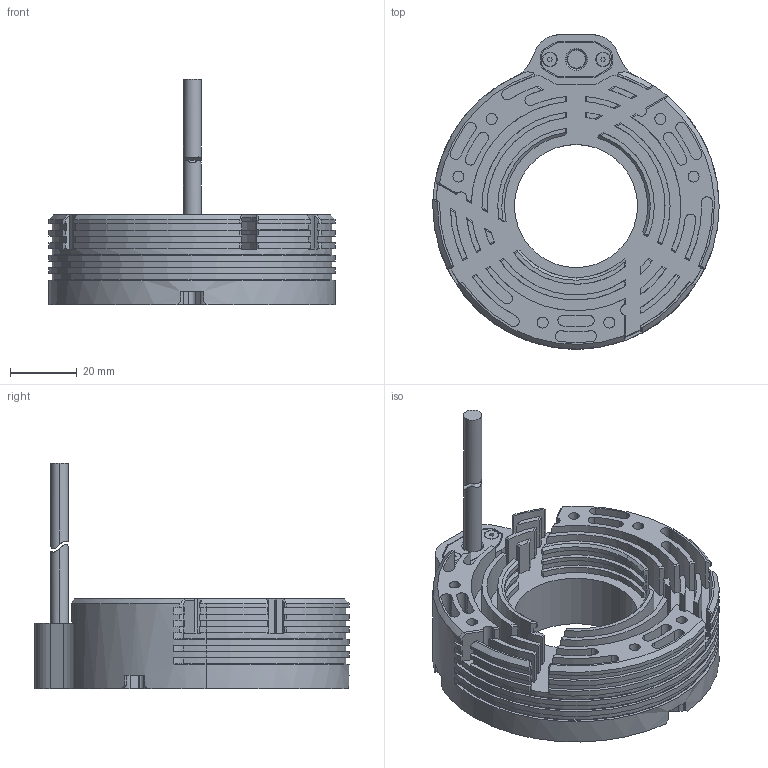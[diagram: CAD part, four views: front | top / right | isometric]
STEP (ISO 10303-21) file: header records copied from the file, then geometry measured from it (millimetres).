
FILE_DESCRIPTION (( 'STEP AP214' ), '1' );
FILE_NAME ('M-TRING-EC-xxx-xx-DT_CLIENT.STEP', '2026-06-04T14:20:13', ( '' ), ( '' ), 'SwSTEP 2.0', 'SolidWorks 2025', '' );
FILE_SCHEMA (( 'AUTOMOTIVE_DESIGN' ));
Length unit declared in the file: millimetre
Products named in the file (1): M-TRING-EC-xxx-xx-DT_CLIENT
Bounding box: 86 x 94.44 x 67.75 mm (x, y, z)
Volume: 97876.8 mm3; surface area: 39395.8 mm2
Topology: 2 solids, 2 shells, 721 faces, 1959 edges, 1293 vertices
Faces by surface type: plane 328, cylinder 309, bspline 71, cone 13
Entity records: 24980 total; most frequent: CARTESIAN_POINT 6933, ORIENTED_EDGE 3918, DIRECTION 3652, EDGE_CURVE 1959, AXIS2_PLACEMENT_3D 1333, VERTEX_POINT 1293, LINE 986, VECTOR 986
